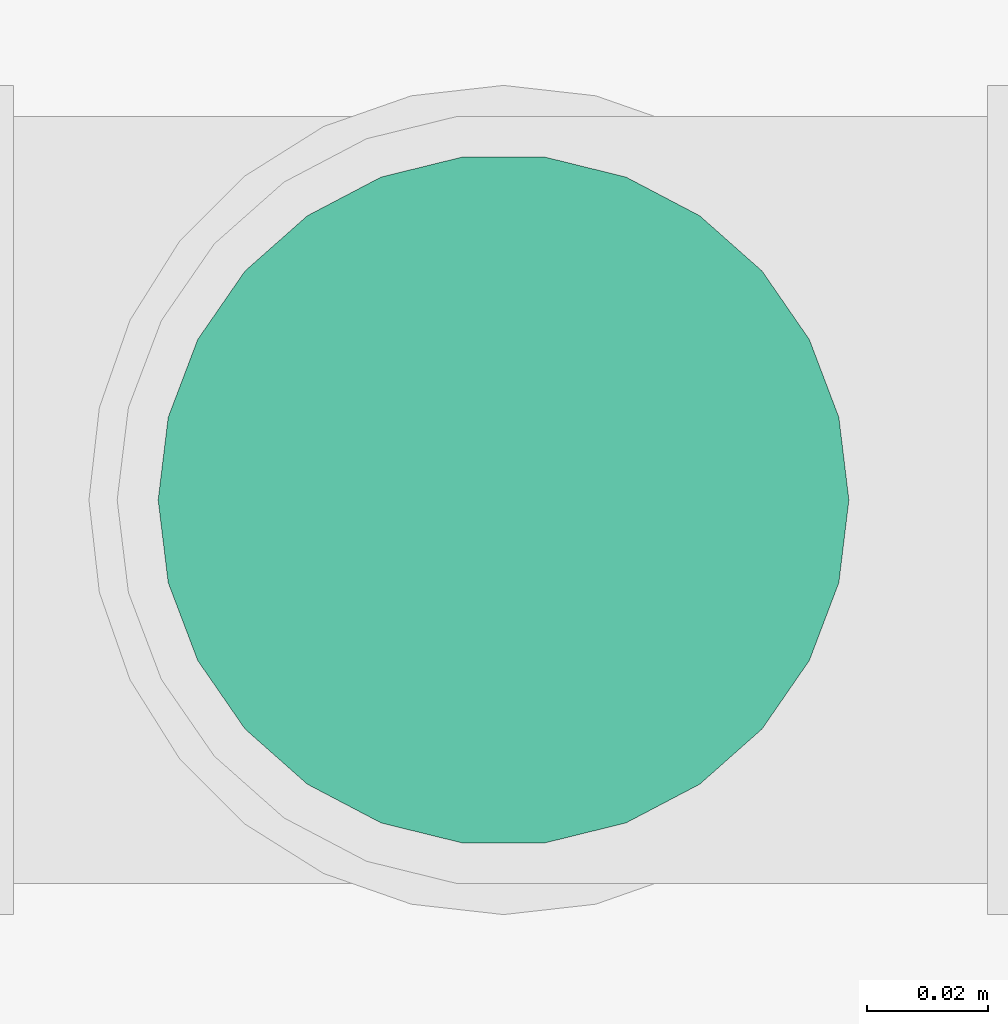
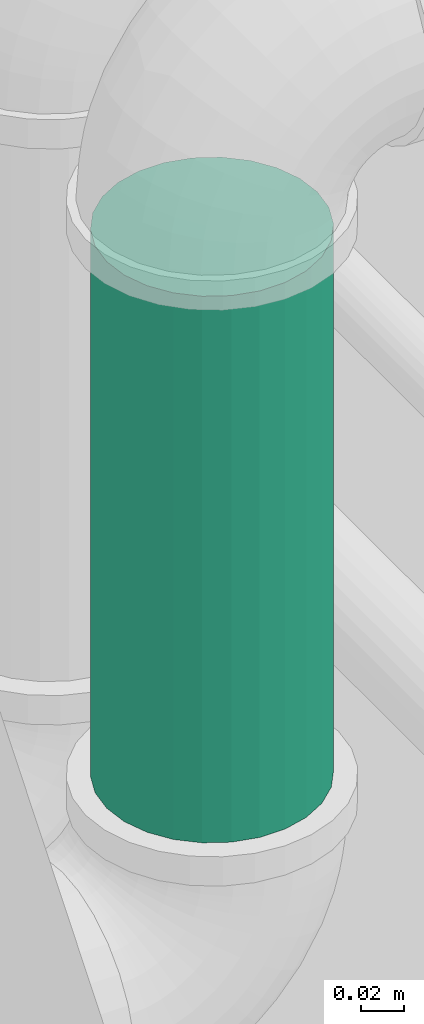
# One storey, part 52 of 108: 1 pipe segment.
"""IFC4 building model written with IfcOpenShell, lengths in feet."""

from ifc_helpers import new_model, entity, si_unit, converted_unit, derived_unit, direction, frame, origin, origin_2d_with_axis, place, context, subcontext, project, spatial, circle, extrude, type_object, element, save


model = new_model("IFC4")

# Units and contexts
model_context = context("Model", 3, precision=0.0001, world=origin(), true_north=direction((6.12303176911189e-17, 1.0)))
body_context = subcontext(model_context, "Body", "Model", "MODEL_VIEW")
ifc_project = project(units=[converted_unit("LENGTHUNIT", "FOOT", entity("IfcRatioMeasure", 0.3048), si_unit("LENGTHUNIT", "METRE"), dimensions=[1, 0, 0, 0, 0, 0, 0]), converted_unit("AREAUNIT", "SQUARE FOOT", entity("IfcRatioMeasure", 0.09290304), si_unit("AREAUNIT", "SQUARE_METRE"), dimensions=[2, 0, 0, 0, 0, 0, 0]), converted_unit("VOLUMEUNIT", "CUBIC FOOT", entity("IfcRatioMeasure", 0.028316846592), si_unit("VOLUMEUNIT", "CUBIC_METRE"), dimensions=[3, 0, 0, 0, 0, 0, 0]), converted_unit("PLANEANGLEUNIT", "DEGREE", entity("IfcRatioMeasure", 0.0174532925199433), si_unit("PLANEANGLEUNIT", "RADIAN"), dimensions=[0, 0, 0, 0, 0, 0, 0]), si_unit("MASSUNIT", "GRAM", prefix="KILO"), derived_unit("MASSDENSITYUNIT", [(si_unit("MASSUNIT", "GRAM", prefix="KILO"), 1), (si_unit("LENGTHUNIT", "METRE"), -3)]), si_unit("TIMEUNIT", "SECOND"), si_unit("FREQUENCYUNIT", "HERTZ"), si_unit("THERMODYNAMICTEMPERATUREUNIT", "DEGREE_CELSIUS"), derived_unit("THERMALTRANSMITTANCEUNIT", [(si_unit("MASSUNIT", "GRAM", prefix="KILO"), 1), (si_unit("THERMODYNAMICTEMPERATUREUNIT", "KELVIN"), -1), (si_unit("TIMEUNIT", "SECOND"), -3)]), derived_unit("VOLUMETRICFLOWRATEUNIT", [(si_unit("LENGTHUNIT", "METRE"), 3), (si_unit("TIMEUNIT", "SECOND"), -1)]), si_unit("ELECTRICCURRENTUNIT", "AMPERE"), si_unit("ELECTRICVOLTAGEUNIT", "VOLT"), si_unit("POWERUNIT", "WATT"), si_unit("FORCEUNIT", "NEWTON"), si_unit("ILLUMINANCEUNIT", "LUX"), si_unit("LUMINOUSFLUXUNIT", "LUMEN"), si_unit("LUMINOUSINTENSITYUNIT", "CANDELA"), derived_unit("USERDEFINED", [(si_unit("MASSUNIT", "GRAM", prefix="KILO"), -1), (si_unit("LENGTHUNIT", "METRE"), -2), (si_unit("TIMEUNIT", "SECOND"), 3), (si_unit("LUMINOUSFLUXUNIT", "LUMEN"), 1)]), derived_unit("LINEARVELOCITYUNIT", [(si_unit("LENGTHUNIT", "METRE"), 1), (si_unit("TIMEUNIT", "SECOND"), -1)]), si_unit("PRESSUREUNIT", "PASCAL"), derived_unit("USERDEFINED", [(si_unit("LENGTHUNIT", "METRE"), -2), (si_unit("MASSUNIT", "GRAM", prefix="KILO"), 1), (si_unit("TIMEUNIT", "SECOND"), -2)])], contexts=[model_context])

# Site, building, storey
site_placement = place(None, origin())
site = spatial("IfcSite", under=ifc_project, at=site_placement, Name="Default", CompositionType="ELEMENT")
building_placement = place(site_placement, origin())
building = spatial("IfcBuilding", under=site, at=building_placement, CompositionType="ELEMENT")
storey_placement = place(building_placement, frame((0.0, 0.0, 168.0)))
storey = spatial("IfcBuildingStorey", under=building, at=storey_placement, Name="Level 15", CompositionType="ELEMENT", Elevation=168.0)

# Pipe segment
pipe_segment_type = type_object("IfcPipeSegmentType", Name="Pipe Types:Hydronic", PredefinedType="NOTDEFINED")
pipe_segment_placement = place(storey_placement, frame((-59.150839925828, 11.4370127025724, 9.90127604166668)))
element("IfcPipeSegment", 1, at=pipe_segment_placement, inside=storey, type_object=pipe_segment_type, Name="Pipe Types:Hydronic", ObjectType="Pipe Types:Hydronic", PredefinedType="NOTDEFINED", context=body_context, shape_type="SweptSolid", body=[
    extrude(circle(Radius=0.1875, at=origin_2d_with_axis()), frame((0.192733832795, 0.192733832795, 0.0)), (0.0, 0.0, 1.0), 1.02761718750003),
])

save(model, "model.ifc")
